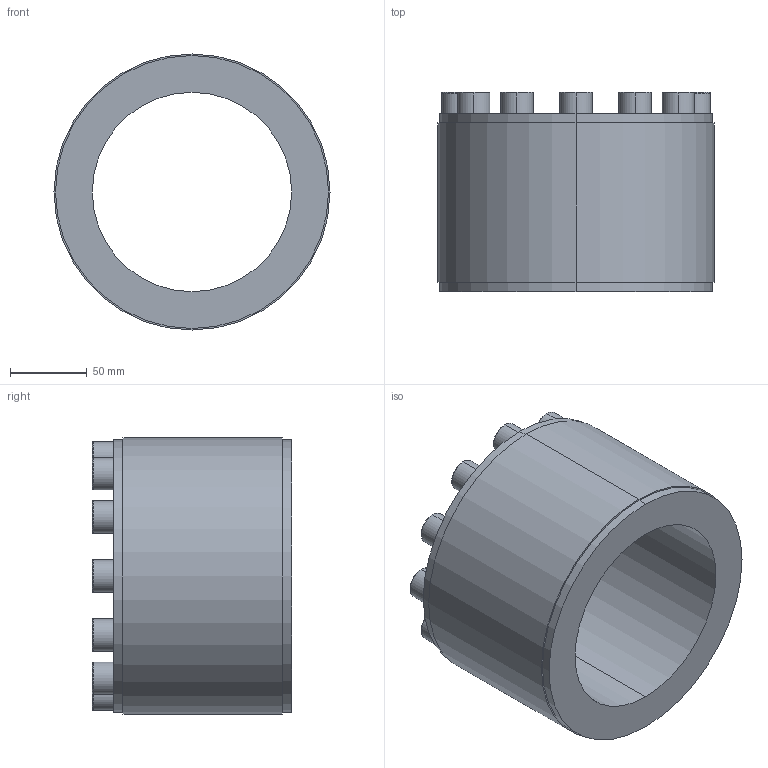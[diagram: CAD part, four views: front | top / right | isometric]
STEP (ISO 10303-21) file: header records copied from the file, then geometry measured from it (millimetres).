
FILE_DESCRIPTION (( 'STEP AP203' ), '1' );
FILE_NAME ('PL-D1 130-180.STEP', '2021-10-23T00:18:04', ( '' ), ( '' ), 'SwSTEP 2.0', 'SolidWorks 2018', '' );
FILE_SCHEMA (( 'CONFIG_CONTROL_DESIGN' ));
Length unit declared in the file: millimetre
Products named in the file (1): PL-D1 130-180
Bounding box: 180 x 130 x 180 mm (x, y, z)
Volume: 1453068.9 mm3; surface area: 151647.7 mm2
Topology: 1 solids, 1 shells, 156 faces, 360 edges, 232 vertices
Faces by surface type: plane 100, cylinder 32, torus 24
Entity records: 4485 total; most frequent: DIRECTION 786, CARTESIAN_POINT 749, ORIENTED_EDGE 720, EDGE_CURVE 360, AXIS2_PLACEMENT_3D 269, VECTOR 248, LINE 248, VERTEX_POINT 232
